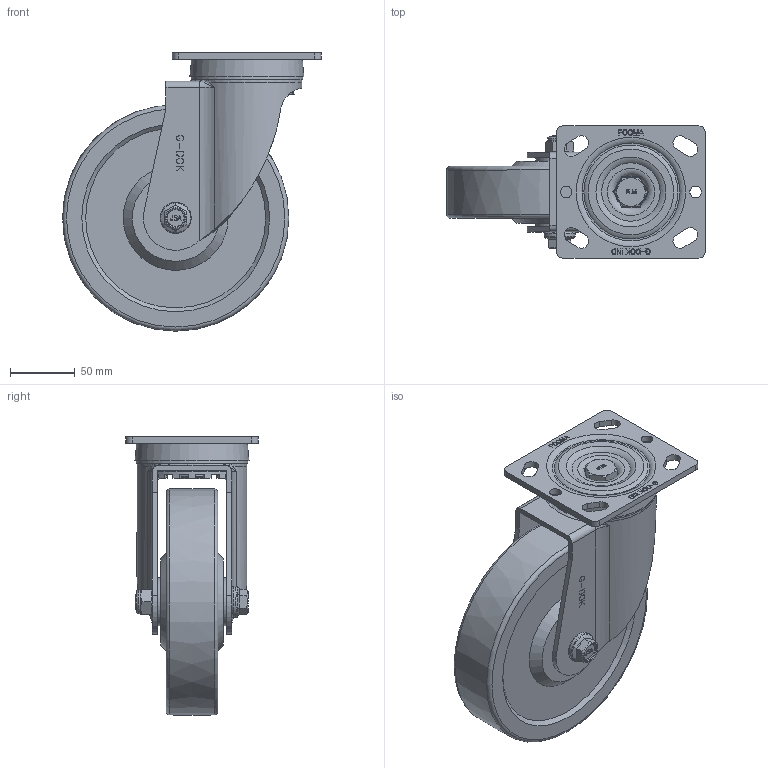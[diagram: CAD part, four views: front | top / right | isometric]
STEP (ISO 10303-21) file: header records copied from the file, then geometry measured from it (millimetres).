
FILE_DESCRIPTION(/* description */ (''),/* implementation_level */ '2;1');
FILE_NAME(/* name */ '\\192.168.10.38\지덕공유\1.기술연구소\2.연구개발 진행중\28.PLM-SERIES_MEDIUM\제품설계\홈페이지용 도면\PLM-175-ASF-MCD.stp',/* time_stamp */ '2022-03-04T18:13:06+09:00',/* author */ ('admin'),/* organization */ (''),/* preprocessor_version */ 'ST-DEVELOPER v18.1',/* originating_system */ 'Autodesk Inventor 2021',/* authorisation */ '');
FILE_SCHEMA (('AUTOMOTIVE_DESIGN { 1 0 10303 214 3 1 1 }'));
Length unit declared in the file: millimetre
Products named in the file (1): PLM-175-ASF-MCD
Bounding box: 199.79 x 102 x 214.98 mm (x, y, z)
Volume: 1193206.8 mm3; surface area: 151214.3 mm2
Topology: 1 solids, 1 shells, 1004 faces, 2765 edges, 1824 vertices
Faces by surface type: plane 680, bspline 142, cylinder 118, cone 36, torus 28
Full cylindrical faces by diameter (mm): 9 x2, 12 x1, 14 x1, 16 x1, 18.5 x1, 24 x1, 37 x2, 64.8 x1, 72.8 x1, 85.857 x1
Entity records: 35002 total; most frequent: CARTESIAN_POINT 10663, ORIENTED_EDGE 5522, DIRECTION 4250, EDGE_CURVE 2761, LINE 1912, VECTOR 1912, VERTEX_POINT 1824, AXIS2_PLACEMENT_3D 1169
